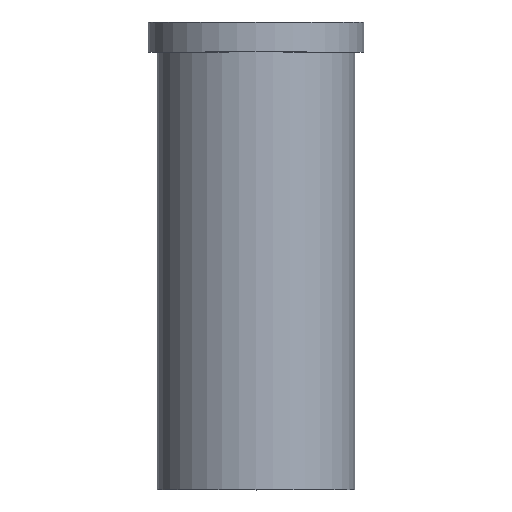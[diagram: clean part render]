
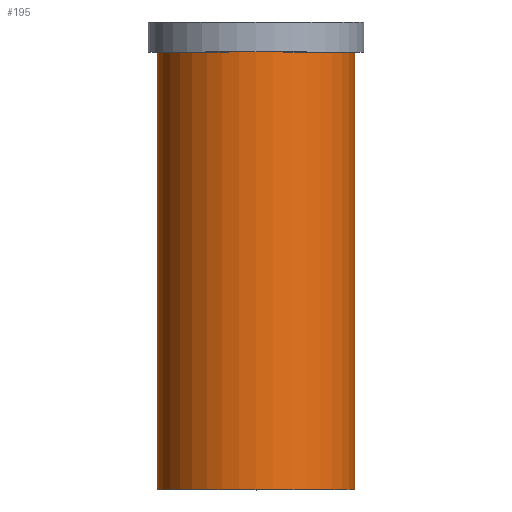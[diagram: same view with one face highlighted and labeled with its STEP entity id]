
A CAD part, top view. The second image highlights one B-rep face of the part: STEP entity #195.
In plain terms, the highlighted cylindrical face has radius 33 mm (diameter 66 mm), a full revolution.
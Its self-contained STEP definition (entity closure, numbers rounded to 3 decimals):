
#32=ORIENTED_EDGE('',*,*,#50,.T.);
#33=ORIENTED_EDGE('',*,*,#49,.F.);
#49=EDGE_CURVE('',#59,#59,#69,.T.);
#50=EDGE_CURVE('',#60,#60,#70,.T.);
#59=VERTEX_POINT('',#280);
#60=VERTEX_POINT('',#283);
#69=CIRCLE('',#213,33.);
#70=CIRCLE('',#215,33.);
#82=EDGE_LOOP('',(#32));
#83=EDGE_LOOP('',(#33));
#102=FACE_BOUND('',#82,.T.);
#103=FACE_BOUND('',#83,.T.);
#117=CYLINDRICAL_SURFACE('',#214,33.);
#195=ADVANCED_FACE('',(#102,#103),#117,.T.);
#213=AXIS2_PLACEMENT_3D('',#279,#241,#242);
#214=AXIS2_PLACEMENT_3D('',#281,#243,#244);
#215=AXIS2_PLACEMENT_3D('',#282,#245,#246);
#241=DIRECTION('',(0.,-1.,0.));
#242=DIRECTION('',(0.,0.,-1.));
#243=DIRECTION('',(0.,-1.,0.));
#244=DIRECTION('',(0.,0.,-1.));
#245=DIRECTION('',(0.,-1.,0.));
#246=DIRECTION('',(0.,0.,-1.));
#279=CARTESIAN_POINT('',(0.,0.,0.));
#280=CARTESIAN_POINT('',(0.,0.,-33.));
#281=CARTESIAN_POINT('',(0.,0.,0.));
#282=CARTESIAN_POINT('',(0.,146.,0.));
#283=CARTESIAN_POINT('',(0.,146.,-33.));
